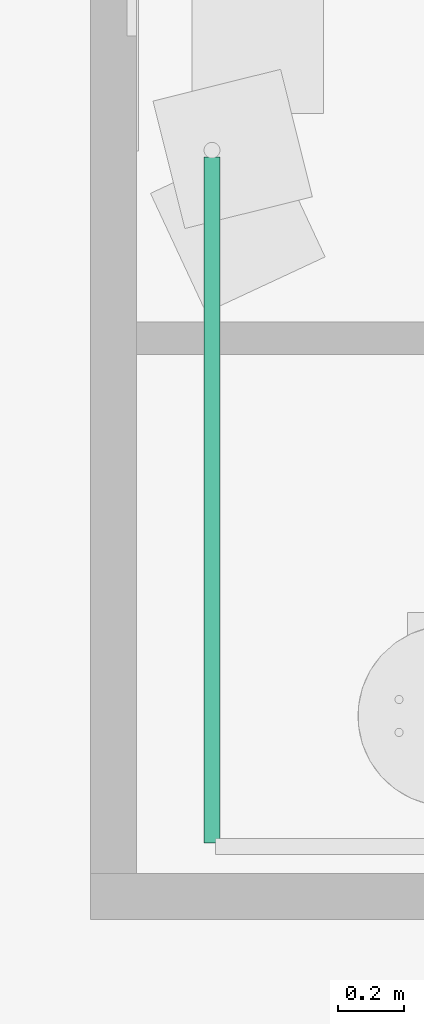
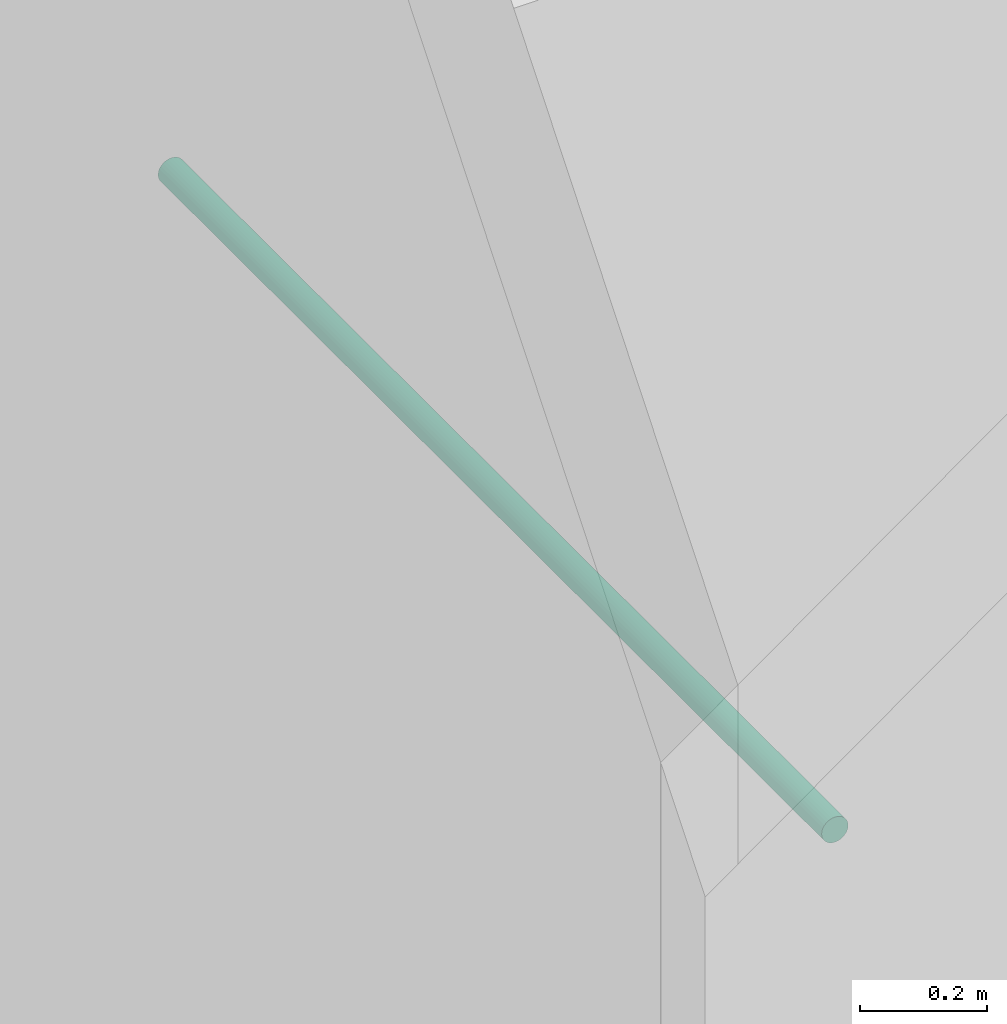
# One storey, part 25 of 71: 1 pipe segment.
"""IFC4 building model written with IfcOpenShell, lengths in centimetres."""

from ifc_helpers import new_model, entity, si_unit, converted_unit, derived_unit, direction, frame, origin, place, context, subcontext, project, spatial, arc, indexed_curve, outline, extrude, type_object, element, save


model = new_model("IFC4")

# Units and contexts
model_context = context("Model", 3, precision=0.001, world=origin(), true_north=direction((6.123233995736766e-17, 1.0)))
body_context = subcontext(model_context, "Body", "Model", "MODEL_VIEW")
ifc_project = project(units=[si_unit("LENGTHUNIT", "METRE", prefix="CENTI"), si_unit("AREAUNIT", "SQUARE_METRE"), si_unit("VOLUMEUNIT", "CUBIC_METRE"), derived_unit("THERMALTRANSMITTANCEUNIT", [(si_unit("MASSUNIT", "GRAM", prefix="KILO"), 1), (si_unit("THERMODYNAMICTEMPERATUREUNIT", "KELVIN"), -1), (si_unit("TIMEUNIT", "SECOND"), -3)]), converted_unit("PLANEANGLEUNIT", "DEGREE", entity("IfcPlaneAngleMeasure", 0.017453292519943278), si_unit("PLANEANGLEUNIT", "RADIAN"), dimensions=[0, 0, 0, 0, 0, 0, 0]), derived_unit("MASSDENSITYUNIT", [(si_unit("MASSUNIT", "GRAM", prefix="KILO"), 1), (si_unit("LENGTHUNIT", "METRE"), -3)]), derived_unit("VAPORPERMEABILITYUNIT", [(si_unit("LENGTHUNIT", "METRE"), -1), (si_unit("TIMEUNIT", "SECOND"), 1)]), derived_unit("USERDEFINED", [(si_unit("MASSUNIT", "GRAM", prefix="KILO"), 1), (si_unit("TIMEUNIT", "SECOND"), -3), (si_unit("LENGTHUNIT", "METRE"), 3), (si_unit("ELECTRICCURRENTUNIT", "AMPERE"), -2)]), derived_unit("SPECIFICHEATCAPACITYUNIT", [(si_unit("THERMODYNAMICTEMPERATUREUNIT", "KELVIN"), -1), (si_unit("LENGTHUNIT", "METRE"), 2), (si_unit("TIMEUNIT", "SECOND"), -2)]), derived_unit("THERMALCONDUCTANCEUNIT", [(si_unit("MASSUNIT", "GRAM", prefix="KILO"), 1), (si_unit("THERMODYNAMICTEMPERATUREUNIT", "KELVIN"), -1), (si_unit("TIMEUNIT", "SECOND"), -3), (si_unit("LENGTHUNIT", "METRE"), 1)]), si_unit("PRESSUREUNIT", "PASCAL"), derived_unit("MODULUSOFELASTICITYUNIT", [(si_unit("MASSUNIT", "GRAM", prefix="KILO"), 1), (si_unit("LENGTHUNIT", "METRE"), -1), (si_unit("TIMEUNIT", "SECOND"), -2)]), derived_unit("THERMALEXPANSIONCOEFFICIENTUNIT", [(si_unit("THERMODYNAMICTEMPERATUREUNIT", "KELVIN"), -1)])], contexts=[model_context])

# Site, building, storey
site_placement = place(None, origin())
site = spatial("IfcSite", under=ifc_project, at=site_placement, Name="Default", CompositionType="ELEMENT")
building_placement = place(site_placement, origin())
building = spatial("IfcBuilding", under=site, at=building_placement, Name="IDS Escape Game Building", CompositionType="ELEMENT")
storey_placement = place(building_placement, frame((0.0, 0.0, 1200.0)))
storey = spatial("IfcBuildingStorey", under=building, at=storey_placement, Name="03_Third Floor", CompositionType="ELEMENT", Elevation=1200.0)

# Pipe segment
pipe_segment_type = type_object("IfcPipeSegmentType", Name="Pipe Types:Piping Aluminum", PredefinedType="NOTDEFINED")
pipe_segment_placement = place(storey_placement, origin())
element("IfcPipeSegment", 1, at=pipe_segment_placement, inside=storey, type_object=pipe_segment_type, Name="Pipe Types:Piping Aluminum", ObjectType="Pipe Types:Piping Aluminum", PredefinedType="NOTDEFINED", context=body_context, shape_type="SweptSolid", body=[
    extrude(outline(indexed_curve([(2.412999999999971, 0.0), (1.7062486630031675, 1.7062486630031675), (0.0, 2.412999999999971), (-1.7062486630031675, 1.7062486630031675), (-2.412999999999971, 0.0), (-1.7062486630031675, -1.7062486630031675), (0.0, -2.412999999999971), (1.7062486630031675, -1.7062486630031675)], segments=[arc(1, 2, 3), arc(3, 4, 5), arc(5, 6, 7), arc(7, 8, 1)], self_intersect=False)), frame((2982.046716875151, 1298.364827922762, 242.0), z_axis=(0.0, 1.0, 0.0), x_axis=(1.0, 0.0, 0.0)), (0.0, 0.0, 1.0), 208.80000000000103),
])

save(model, "model.ifc")
